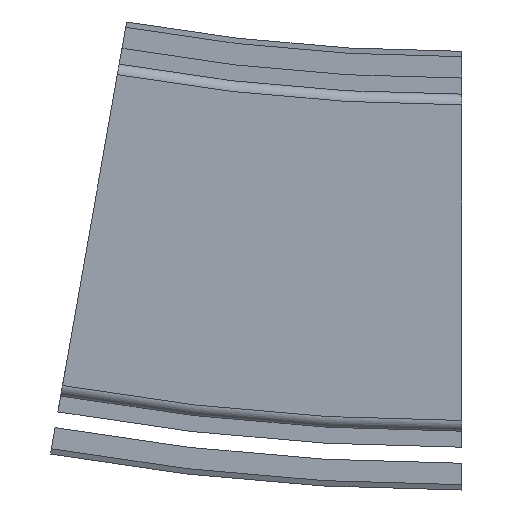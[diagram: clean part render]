
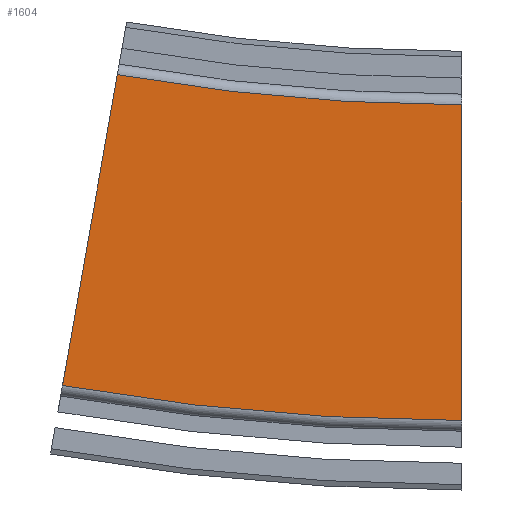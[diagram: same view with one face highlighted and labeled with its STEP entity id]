
A CAD part, front view. The second image highlights one B-rep face of the part: STEP entity #1604.
In plain terms, the highlighted planar face has unit normal (0, -1, 0).
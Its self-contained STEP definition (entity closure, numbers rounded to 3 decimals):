
#140=PLANE('',#1768);
#227=FACE_OUTER_BOUND('',#319,.T.);
#319=EDGE_LOOP('',(#1408,#1409,#1410,#1411));
#361=CIRCLE('',#1715,370.5);
#380=CIRCLE('',#1751,429.5);
#512=LINE('',#7331,#638);
#513=LINE('',#7332,#639);
#638=VECTOR('',#2170,10.);
#639=VECTOR('',#2171,10.);
#748=VERTEX_POINT('',#7181);
#749=VERTEX_POINT('',#7183);
#780=VERTEX_POINT('',#7280);
#782=VERTEX_POINT('',#7283);
#955=EDGE_CURVE('',#748,#749,#361,.T.);
#1004=EDGE_CURVE('',#780,#782,#380,.T.);
#1028=EDGE_CURVE('',#748,#780,#512,.T.);
#1029=EDGE_CURVE('',#782,#749,#513,.T.);
#1408=ORIENTED_EDGE('',*,*,#1028,.F.);
#1409=ORIENTED_EDGE('',*,*,#955,.T.);
#1410=ORIENTED_EDGE('',*,*,#1029,.F.);
#1411=ORIENTED_EDGE('',*,*,#1004,.F.);
#1604=ADVANCED_FACE('',(#227),#140,.T.);
#1715=AXIS2_PLACEMENT_3D('',#7185,#2018,#2019);
#1751=AXIS2_PLACEMENT_3D('',#7284,#2120,#2121);
#1768=AXIS2_PLACEMENT_3D('',#7330,#2168,#2169);
#2018=DIRECTION('center_axis',(0.,1.,0.));
#2019=DIRECTION('ref_axis',(0.,0.,-1.));
#2120=DIRECTION('center_axis',(0.,1.,0.));
#2121=DIRECTION('ref_axis',(0.,0.,-1.));
#2168=DIRECTION('center_axis',(0.,-1.,0.));
#2169=DIRECTION('ref_axis',(0.,0.,-1.));
#2170=DIRECTION('',(0.,0.,-1.));
#2171=DIRECTION('',(0.174,0.,0.985));
#7181=CARTESIAN_POINT('',(0.,-73.,29.5));
#7183=CARTESIAN_POINT('',(-64.337,-73.,35.129));
#7185=CARTESIAN_POINT('Origin',(0.,-73.,
400.));
#7280=CARTESIAN_POINT('',(0.,-73.,-29.5));
#7283=CARTESIAN_POINT('',(-74.582,-73.,-22.975));
#7284=CARTESIAN_POINT('Origin',(0.,-73.,
400.));
#7330=CARTESIAN_POINT('Origin',(0.,-73.,-5.5));
#7331=CARTESIAN_POINT('',(0.,-73.,5.5));
#7332=CARTESIAN_POINT('',(-70.414,-73.,0.66));
